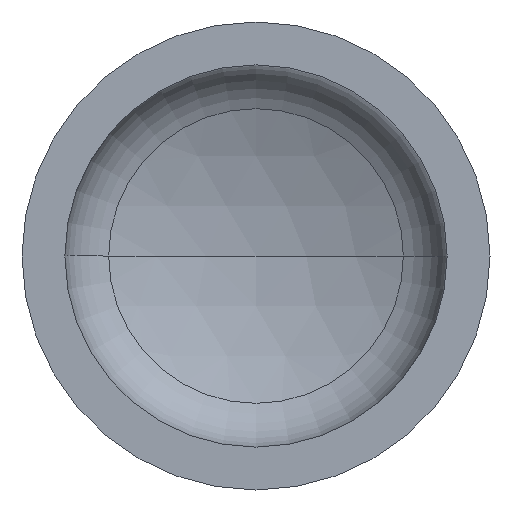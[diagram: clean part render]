
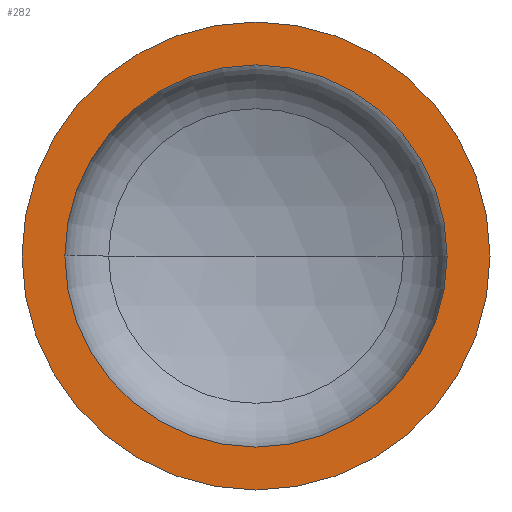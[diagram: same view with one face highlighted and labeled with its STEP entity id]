
A CAD part, front view. The second image highlights one B-rep face of the part: STEP entity #282.
In plain terms, the highlighted planar face has unit normal (0, -1, 0).
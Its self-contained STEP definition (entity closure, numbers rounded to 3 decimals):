
#11 = DIRECTION ( 'NONE',  ( 1., 0., 0. ) ) ;
#12 = EDGE_LOOP ( 'NONE', ( #85, #38 ) ) ;
#14 = DIRECTION ( 'NONE',  ( 0., -1., 0. ) ) ;
#15 = CARTESIAN_POINT ( 'NONE',  ( 0., 0., 0. ) ) ;
#25 = ORIENTED_EDGE ( 'NONE', *, *, #344, .F. ) ;
#29 = AXIS2_PLACEMENT_3D ( 'NONE', #236, #404, #361 ) ;
#33 = AXIS2_PLACEMENT_3D ( 'NONE', #99, #101, #149 ) ;
#38 = ORIENTED_EDGE ( 'NONE', *, *, #339, .T. ) ;
#49 = EDGE_LOOP ( 'NONE', ( #25, #136 ) ) ;
#55 = AXIS2_PLACEMENT_3D ( 'NONE', #200, #247, #237 ) ;
#77 = AXIS2_PLACEMENT_3D ( 'NONE', #15, #14, #11 ) ;
#82 = VERTEX_POINT ( 'NONE', #222 ) ;
#85 = ORIENTED_EDGE ( 'NONE', *, *, #122, .T. ) ;
#93 = AXIS2_PLACEMENT_3D ( 'NONE', #331, #329, #226 ) ;
#94 = VERTEX_POINT ( 'NONE', #211 ) ;
#99 = CARTESIAN_POINT ( 'NONE',  ( 0., 0., 0. ) ) ;
#101 = DIRECTION ( 'NONE',  ( 0., -1., 0. ) ) ;
#103 = VERTEX_POINT ( 'NONE', #228 ) ;
#122 = EDGE_CURVE ( 'NONE', #82, #146, #379, .T. ) ;
#136 = ORIENTED_EDGE ( 'NONE', *, *, #241, .F. ) ;
#146 = VERTEX_POINT ( 'NONE', #326 ) ;
#149 = DIRECTION ( 'NONE',  ( 1., 0., 0. ) ) ;
#190 = PLANE ( 'NONE',  #55 ) ;
#199 = CIRCLE ( 'NONE', #29, 490. ) ;
#200 = CARTESIAN_POINT ( 'NONE',  ( -600., 0., 0. ) ) ;
#211 = CARTESIAN_POINT ( 'NONE',  ( -490., 0., 0. ) ) ;
#214 = FACE_BOUND ( 'NONE', #49, .T. ) ;
#222 = CARTESIAN_POINT ( 'NONE',  ( 600., 0., 0. ) ) ;
#226 = DIRECTION ( 'NONE',  ( 1., 0., 0. ) ) ;
#228 = CARTESIAN_POINT ( 'NONE',  ( 490., 0., 0. ) ) ;
#236 = CARTESIAN_POINT ( 'NONE',  ( 0., 0., 0. ) ) ;
#237 = DIRECTION ( 'NONE',  ( -1., 0., 0. ) ) ;
#241 = EDGE_CURVE ( 'NONE', #94, #103, #295, .T. ) ;
#247 = DIRECTION ( 'NONE',  ( 0., 1., 0. ) ) ;
#282 = ADVANCED_FACE ( 'NONE', ( #214, #405 ), #190, .F. ) ;
#295 = CIRCLE ( 'NONE', #77, 490. ) ;
#326 = CARTESIAN_POINT ( 'NONE',  ( -600., 0., 0. ) ) ;
#329 = DIRECTION ( 'NONE',  ( 0., -1., 0. ) ) ;
#331 = CARTESIAN_POINT ( 'NONE',  ( 0., 0., 0. ) ) ;
#339 = EDGE_CURVE ( 'NONE', #146, #82, #397, .T. ) ;
#344 = EDGE_CURVE ( 'NONE', #103, #94, #199, .T. ) ;
#361 = DIRECTION ( 'NONE',  ( 1., 0., 0. ) ) ;
#379 = CIRCLE ( 'NONE', #93, 600. ) ;
#397 = CIRCLE ( 'NONE', #33, 600. ) ;
#404 = DIRECTION ( 'NONE',  ( 0., -1., 0. ) ) ;
#405 = FACE_OUTER_BOUND ( 'NONE', #12, .T. ) ;
